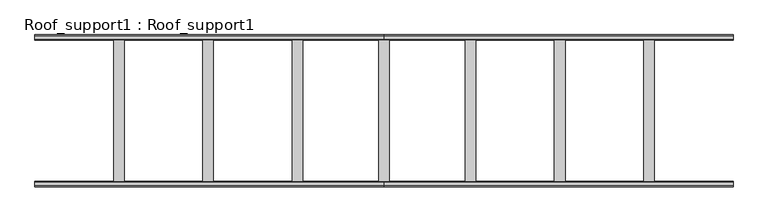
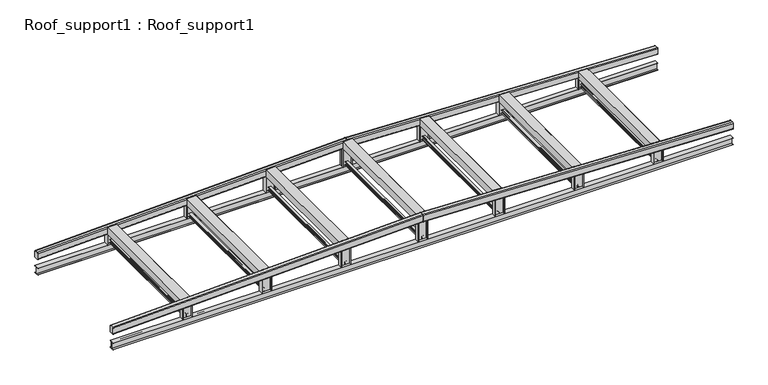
"""IFC4 building model written with IfcOpenShell, lengths in millimetres: beam geometry, Roof_support1 : Roof_support1."""

from ifc_helpers import new_model, si_unit, point, frame, frame_2d, origin, place, context, project, spatial, polyline, circle_curve, trimmed, segment, composite_curve, outline, extrude, source, transform, mapped, element, save
from ifc_brep_helpers import plane_surface, extruded_surface, advanced_brep


def roof_support1_roof_support1_25a3c9fb(model_context):
    return source(origin(), model_context, "Body", "SolidModel", [
        extrude(outline(polyline([(3326.3767243, 5150.0), (3333.4167515, 4948.4), (3177.6863105, 4948.4), (3177.6863105, 4953.4), (3328.2390999, 4953.4), (3321.5482805, 5145.0), (3171.2121292, 5145.0), (3171.0375254, 5150.0), (3326.3767243, 5150.0)])), frame((0.0, -2776.446518, 0.0), z_axis=(0.0, 1.0, 0.0), x_axis=(0.0, 0.0, 1.0)), (0.0, 0.0, 1.0), 2696.8321342),
        extrude(outline(polyline([(3387.6606342, 3450.0), (3394.7006613, 3248.4), (3238.9702203, 3248.4), (3238.9702203, 3253.4), (3389.5230098, 3253.4), (3382.8321903, 3445.0), (3232.4960391, 3445.0), (3232.3214353, 3450.0), (3387.6606342, 3450.0)])), frame((0.0, -2776.446518, 0.0), z_axis=(0.0, 1.0, 0.0), x_axis=(0.0, 0.0, 1.0)), (0.0, 0.0, 1.0), 2696.8321342),
        extrude(outline(polyline([(3448.3765673, 1750.0), (3455.4165944, 1548.4), (3299.6861534, 1548.4), (3299.6861534, 1553.4), (3450.2389429, 1553.4), (3443.5481234, 1745.0), (3293.2119722, 1745.0), (3293.0373683, 1750.0), (3448.3765673, 1750.0)])), frame((0.0, -2776.446518, 0.0), z_axis=(0.0, 1.0, 0.0), x_axis=(0.0, 0.0, 1.0)), (0.0, 0.0, 1.0), 2696.8321342),
        extrude(outline(polyline([(3507.1198461, -100.8), (3340.2193721, -100.8), (3340.393976, -95.8), (3502.1198461, -95.8), (3502.1198461, 95.8), (3340.2799419, 95.8), (3340.2799419, 100.8), (3507.1198461, 100.8), (3507.1198461, -100.8)])), frame((0.0, -2776.446518, 0.0), z_axis=(0.0, 1.0, 0.0), x_axis=(0.0, 0.0, 1.0)), (0.0, 0.0, 1.0), 2696.8321342),
        extrude(outline(polyline([(3446.3767243, -1751.6), (3291.0375254, -1751.6), (3291.2121292, -1746.6), (3441.5482805, -1746.6), (3448.2390999, -1555.0), (3297.6863105, -1555.0), (3297.6863105, -1550.0), (3453.4167515, -1550.0), (3446.3767243, -1751.6)])), frame((0.0, -2776.446518, 0.0), z_axis=(0.0, 1.0, 0.0), x_axis=(0.0, 0.0, 1.0)), (0.0, 0.0, 1.0), 2696.8321342),
        extrude(outline(polyline([(3386.3767243, -3451.6), (3231.0375254, -3451.6), (3231.2121292, -3446.6), (3381.5482805, -3446.6), (3388.2390999, -3255.0), (3237.6863105, -3255.0), (3237.6863105, -3250.0), (3393.4167515, -3250.0), (3386.3767243, -3451.6)])), frame((0.0, -2776.446518, 0.0), z_axis=(0.0, 1.0, 0.0), x_axis=(0.0, 0.0, 1.0)), (0.0, 0.0, 1.0), 2696.8321342),
        extrude(outline(polyline([(3326.3767243, -5151.6), (3171.0375254, -5151.6), (3171.2121292, -5146.6), (3321.5482805, -5146.6), (3328.2390999, -4955.0), (3177.6863105, -4955.0), (3177.6863105, -4950.0), (3333.4167515, -4950.0), (3326.3767243, -5151.6)])), frame((0.0, -2776.446518, 0.0), z_axis=(0.0, 1.0, 0.0), x_axis=(0.0, 0.0, 1.0)), (0.0, 0.0, 1.0), 2696.8321342),
        extrude(outline(composite_curve([segment(polyline([(3003.6, 5081.7625), (3003.6, 5021.4375), (3000.388379, 5021.4375)]), True, "CONTINUOUS"), segment(trimmed(circle_curve(frame_2d((3000.388379, 5023.9312396)), 2.4937396), [point((3000.388379, 5021.4375))], [point((2997.8946395, 5023.9312396))], False, "CARTESIAN"), True, "CONTINUOUS"), segment(polyline([(2997.8946395, 5023.9312396), (2996.9292635, 5042.3517109)]), True, "CONTINUOUS"), segment(trimmed(circle_curve(frame_2d((2990.0622374, 5042.3517109)), 6.8670261), [point((2996.9292635, 5042.3517109))], [point((2990.0622374, 5049.218737))], True, "CARTESIAN"), True, "CONTINUOUS"), segment(polyline([(2990.0622374, 5049.218737), (2940.985965, 5049.218737)]), True, "CONTINUOUS"), segment(trimmed(circle_curve(frame_2d((2940.985965, 5042.3506877)), 6.8680494), [point((2940.985965, 5049.218737))], [point((2934.1179156, 5042.3506877))], True, "CARTESIAN"), True, "CONTINUOUS"), segment(polyline([(2934.1179156, 5042.3506877), (2933.1492258, 5023.8669861)]), True, "CONTINUOUS"), segment(trimmed(circle_curve(frame_2d((2930.6065942, 5024.0002397)), 2.546121), [point((2933.1492258, 5023.8669861))], [point((2930.5621583, 5021.4545065))], False, "CARTESIAN"), True, "CONTINUOUS"), segment(polyline([(2930.5621583, 5021.4545065), (2927.4, 5021.4545065), (2927.4, 5081.7454935), (2930.5621583, 5081.7454935)]), True, "CONTINUOUS"), segment(trimmed(circle_curve(frame_2d((2930.6065942, 5079.1997603)), 2.546121), [point((2930.5621583, 5081.7454935))], [point((2933.1492258, 5079.3330139))], False, "CARTESIAN"), True, "CONTINUOUS"), segment(polyline([(2933.1492258, 5079.3330139), (2934.1179156, 5060.8493123)]), True, "CONTINUOUS"), segment(trimmed(circle_curve(frame_2d((2940.985965, 5060.8493123)), 6.8680494), [point((2934.1179156, 5060.8493123))], [point((2940.985965, 5053.981263))], True, "CARTESIAN"), True, "CONTINUOUS"), segment(polyline([(2940.985965, 5053.981263), (2990.0622374, 5053.981263)]), True, "CONTINUOUS"), segment(trimmed(circle_curve(frame_2d((2990.0622374, 5060.8482891)), 6.8670261), [point((2990.0622374, 5053.981263))], [point((2996.9292635, 5060.8482891))], True, "CARTESIAN"), True, "CONTINUOUS"), segment(polyline([(2996.9292635, 5060.8482891), (2997.8946395, 5079.2687604)]), True, "CONTINUOUS"), segment(trimmed(circle_curve(frame_2d((3000.388379, 5079.2687604)), 2.4937396), [point((2997.8946395, 5079.2687604))], [point((3000.388379, 5081.7625))], False, "CARTESIAN"), True, "CONTINUOUS"), segment(polyline([(3000.388379, 5081.7625), (3003.6, 5081.7625)]), True, "CONTINUOUS")], self_intersect=False)), frame((0.0, -2824.0353472, 0.0), z_axis=(0.0, 1.0, 0.0), x_axis=(0.0, 0.0, 1.0)), (0.0, 0.0, 1.0), 2792.0097926),
        extrude(outline(composite_curve([segment(polyline([(3003.6, 3381.7625), (3003.6, 3321.4375), (3000.388379, 3321.4375)]), True, "CONTINUOUS"), segment(trimmed(circle_curve(frame_2d((3000.388379, 3323.9312396)), 2.4937396), [point((3000.388379, 3321.4375))], [point((2997.8946395, 3323.9312396))], False, "CARTESIAN"), True, "CONTINUOUS"), segment(polyline([(2997.8946395, 3323.9312396), (2996.9292635, 3342.3517109)]), True, "CONTINUOUS"), segment(trimmed(circle_curve(frame_2d((2990.0622374, 3342.3517109)), 6.8670261), [point((2996.9292635, 3342.3517109))], [point((2990.0622374, 3349.218737))], True, "CARTESIAN"), True, "CONTINUOUS"), segment(polyline([(2990.0622374, 3349.218737), (2940.985965, 3349.218737)]), True, "CONTINUOUS"), segment(trimmed(circle_curve(frame_2d((2940.985965, 3342.3506877)), 6.8680494), [point((2940.985965, 3349.218737))], [point((2934.1179156, 3342.3506877))], True, "CARTESIAN"), True, "CONTINUOUS"), segment(polyline([(2934.1179156, 3342.3506877), (2933.1492258, 3323.8669861)]), True, "CONTINUOUS"), segment(trimmed(circle_curve(frame_2d((2930.6065942, 3324.0002397)), 2.546121), [point((2933.1492258, 3323.8669861))], [point((2930.5621583, 3321.4545065))], False, "CARTESIAN"), True, "CONTINUOUS"), segment(polyline([(2930.5621583, 3321.4545065), (2927.4, 3321.4545065), (2927.4, 3381.7454935), (2930.5621583, 3381.7454935)]), True, "CONTINUOUS"), segment(trimmed(circle_curve(frame_2d((2930.6065942, 3379.1997603)), 2.546121), [point((2930.5621583, 3381.7454935))], [point((2933.1492258, 3379.3330139))], False, "CARTESIAN"), True, "CONTINUOUS"), segment(polyline([(2933.1492258, 3379.3330139), (2934.1179156, 3360.8493123)]), True, "CONTINUOUS"), segment(trimmed(circle_curve(frame_2d((2940.985965, 3360.8493123)), 6.8680494), [point((2934.1179156, 3360.8493123))], [point((2940.985965, 3353.981263))], True, "CARTESIAN"), True, "CONTINUOUS"), segment(polyline([(2940.985965, 3353.981263), (2990.0622374, 3353.981263)]), True, "CONTINUOUS"), segment(trimmed(circle_curve(frame_2d((2990.0622374, 3360.8482891)), 6.8670261), [point((2990.0622374, 3353.981263))], [point((2996.9292635, 3360.8482891))], True, "CARTESIAN"), True, "CONTINUOUS"), segment(polyline([(2996.9292635, 3360.8482891), (2997.8946395, 3379.2687604)]), True, "CONTINUOUS"), segment(trimmed(circle_curve(frame_2d((3000.388379, 3379.2687604)), 2.4937396), [point((2997.8946395, 3379.2687604))], [point((3000.388379, 3381.7625))], False, "CARTESIAN"), True, "CONTINUOUS"), segment(polyline([(3000.388379, 3381.7625), (3003.6, 3381.7625)]), True, "CONTINUOUS")], self_intersect=False)), frame((0.0, -2824.0353472, 0.0), z_axis=(0.0, 1.0, 0.0), x_axis=(0.0, 0.0, 1.0)), (0.0, 0.0, 1.0), 2792.0097926),
        extrude(outline(composite_curve([segment(polyline([(3003.6, 1681.7625), (3003.6, 1621.4375), (3000.388379, 1621.4375)]), True, "CONTINUOUS"), segment(trimmed(circle_curve(frame_2d((3000.388379, 1623.9312396)), 2.4937396), [point((3000.388379, 1621.4375))], [point((2997.8946395, 1623.9312396))], False, "CARTESIAN"), True, "CONTINUOUS"), segment(polyline([(2997.8946395, 1623.9312396), (2996.9292635, 1642.3517109)]), True, "CONTINUOUS"), segment(trimmed(circle_curve(frame_2d((2990.0622374, 1642.3517109)), 6.8670261), [point((2996.9292635, 1642.3517109))], [point((2990.0622374, 1649.218737))], True, "CARTESIAN"), True, "CONTINUOUS"), segment(polyline([(2990.0622374, 1649.218737), (2940.985965, 1649.218737)]), True, "CONTINUOUS"), segment(trimmed(circle_curve(frame_2d((2940.985965, 1642.3506877)), 6.8680494), [point((2940.985965, 1649.218737))], [point((2934.1179156, 1642.3506877))], True, "CARTESIAN"), True, "CONTINUOUS"), segment(polyline([(2934.1179156, 1642.3506877), (2933.1492258, 1623.8669861)]), True, "CONTINUOUS"), segment(trimmed(circle_curve(frame_2d((2930.6065942, 1624.0002397)), 2.546121), [point((2933.1492258, 1623.8669861))], [point((2930.5621583, 1621.4545065))], False, "CARTESIAN"), True, "CONTINUOUS"), segment(polyline([(2930.5621583, 1621.4545065), (2927.4, 1621.4545065), (2927.4, 1681.7454935), (2930.5621583, 1681.7454935)]), True, "CONTINUOUS"), segment(trimmed(circle_curve(frame_2d((2930.6065942, 1679.1997603)), 2.546121), [point((2930.5621583, 1681.7454935))], [point((2933.1492258, 1679.3330139))], False, "CARTESIAN"), True, "CONTINUOUS"), segment(polyline([(2933.1492258, 1679.3330139), (2934.1179156, 1660.8493123)]), True, "CONTINUOUS"), segment(trimmed(circle_curve(frame_2d((2940.985965, 1660.8493123)), 6.8680494), [point((2934.1179156, 1660.8493123))], [point((2940.985965, 1653.981263))], True, "CARTESIAN"), True, "CONTINUOUS"), segment(polyline([(2940.985965, 1653.981263), (2990.0622374, 1653.981263)]), True, "CONTINUOUS"), segment(trimmed(circle_curve(frame_2d((2990.0622374, 1660.8482891)), 6.8670261), [point((2990.0622374, 1653.981263))], [point((2996.9292635, 1660.8482891))], True, "CARTESIAN"), True, "CONTINUOUS"), segment(polyline([(2996.9292635, 1660.8482891), (2997.8946395, 1679.2687604)]), True, "CONTINUOUS"), segment(trimmed(circle_curve(frame_2d((3000.388379, 1679.2687604)), 2.4937396), [point((2997.8946395, 1679.2687604))], [point((3000.388379, 1681.7625))], False, "CARTESIAN"), True, "CONTINUOUS"), segment(polyline([(3000.388379, 1681.7625), (3003.6, 1681.7625)]), True, "CONTINUOUS")], self_intersect=False)), frame((0.0, -2824.0353472, 0.0), z_axis=(0.0, 1.0, 0.0), x_axis=(0.0, 0.0, 1.0)), (0.0, 0.0, 1.0), 2792.0097926),
        extrude(outline(composite_curve([segment(polyline([(3003.6, 31.7625), (3003.6, -28.5625), (3000.388379, -28.5625)]), True, "CONTINUOUS"), segment(trimmed(circle_curve(frame_2d((3000.388379, -26.0687604)), 2.4937396), [point((3000.388379, -28.5625))], [point((2997.8946395, -26.0687604))], False, "CARTESIAN"), True, "CONTINUOUS"), segment(polyline([(2997.8946395, -26.0687604), (2996.9292635, -7.6482891)]), True, "CONTINUOUS"), segment(trimmed(circle_curve(frame_2d((2990.0622374, -7.6482891)), 6.8670261), [point((2996.9292635, -7.6482891))], [point((2990.0622374, -0.781263))], True, "CARTESIAN"), True, "CONTINUOUS"), segment(polyline([(2990.0622374, -0.781263), (2940.985965, -0.781263)]), True, "CONTINUOUS"), segment(trimmed(circle_curve(frame_2d((2940.985965, -7.6493123)), 6.8680494), [point((2940.985965, -0.781263))], [point((2934.1179156, -7.6493123))], True, "CARTESIAN"), True, "CONTINUOUS"), segment(polyline([(2934.1179156, -7.6493123), (2933.1492258, -26.1330139)]), True, "CONTINUOUS"), segment(trimmed(circle_curve(frame_2d((2930.6065942, -25.9997603)), 2.546121), [point((2933.1492258, -26.1330139))], [point((2930.5621583, -28.5454935))], False, "CARTESIAN"), True, "CONTINUOUS"), segment(polyline([(2930.5621583, -28.5454935), (2927.4, -28.5454935), (2927.4, 31.7454935), (2930.5621583, 31.7454935)]), True, "CONTINUOUS"), segment(trimmed(circle_curve(frame_2d((2930.6065942, 29.1997603)), 2.546121), [point((2930.5621583, 31.7454935))], [point((2933.1492258, 29.3330139))], False, "CARTESIAN"), True, "CONTINUOUS"), segment(polyline([(2933.1492258, 29.3330139), (2934.1179156, 10.8493123)]), True, "CONTINUOUS"), segment(trimmed(circle_curve(frame_2d((2940.985965, 10.8493123)), 6.8680494), [point((2934.1179156, 10.8493123))], [point((2940.985965, 3.981263))], True, "CARTESIAN"), True, "CONTINUOUS"), segment(polyline([(2940.985965, 3.981263), (2990.0622374, 3.981263)]), True, "CONTINUOUS"), segment(trimmed(circle_curve(frame_2d((2990.0622374, 10.8482891)), 6.8670261), [point((2990.0622374, 3.981263))], [point((2996.9292635, 10.8482891))], True, "CARTESIAN"), True, "CONTINUOUS"), segment(polyline([(2996.9292635, 10.8482891), (2997.8946395, 29.2687604)]), True, "CONTINUOUS"), segment(trimmed(circle_curve(frame_2d((3000.388379, 29.2687604)), 2.4937396), [point((2997.8946395, 29.2687604))], [point((3000.388379, 31.7625))], False, "CARTESIAN"), True, "CONTINUOUS"), segment(polyline([(3000.388379, 31.7625), (3003.6, 31.7625)]), True, "CONTINUOUS")], self_intersect=False)), frame((0.0, -2824.0353472, 0.0), z_axis=(0.0, 1.0, 0.0), x_axis=(0.0, 0.0, 1.0)), (0.0, 0.0, 1.0), 2792.0097926),
        extrude(outline(composite_curve([segment(polyline([(3003.6, -1619.8375), (3003.6, -1680.1625), (3000.388379, -1680.1625)]), True, "CONTINUOUS"), segment(trimmed(circle_curve(frame_2d((3000.388379, -1677.6687604)), 2.4937396), [point((3000.388379, -1680.1625))], [point((2997.8946395, -1677.6687604))], False, "CARTESIAN"), True, "CONTINUOUS"), segment(polyline([(2997.8946395, -1677.6687604), (2996.9292635, -1659.2482891)]), True, "CONTINUOUS"), segment(trimmed(circle_curve(frame_2d((2990.0622374, -1659.2482891)), 6.8670261), [point((2996.9292635, -1659.2482891))], [point((2990.0622374, -1652.381263))], True, "CARTESIAN"), True, "CONTINUOUS"), segment(polyline([(2990.0622374, -1652.381263), (2940.985965, -1652.381263)]), True, "CONTINUOUS"), segment(trimmed(circle_curve(frame_2d((2940.985965, -1659.2493123)), 6.8680494), [point((2940.985965, -1652.381263))], [point((2934.1179156, -1659.2493123))], True, "CARTESIAN"), True, "CONTINUOUS"), segment(polyline([(2934.1179156, -1659.2493123), (2933.1492258, -1677.7330139)]), True, "CONTINUOUS"), segment(trimmed(circle_curve(frame_2d((2930.6065942, -1677.5997603)), 2.546121), [point((2933.1492258, -1677.7330139))], [point((2930.5621583, -1680.1454935))], False, "CARTESIAN"), True, "CONTINUOUS"), segment(polyline([(2930.5621583, -1680.1454935), (2927.4, -1680.1454935), (2927.4, -1619.8545065), (2930.5621583, -1619.8545065)]), True, "CONTINUOUS"), segment(trimmed(circle_curve(frame_2d((2930.6065942, -1622.4002397)), 2.546121), [point((2930.5621583, -1619.8545065))], [point((2933.1492258, -1622.2669861))], False, "CARTESIAN"), True, "CONTINUOUS"), segment(polyline([(2933.1492258, -1622.2669861), (2934.1179156, -1640.7506877)]), True, "CONTINUOUS"), segment(trimmed(circle_curve(frame_2d((2940.985965, -1640.7506877)), 6.8680494), [point((2934.1179156, -1640.7506877))], [point((2940.985965, -1647.618737))], True, "CARTESIAN"), True, "CONTINUOUS"), segment(polyline([(2940.985965, -1647.618737), (2990.0622374, -1647.618737)]), True, "CONTINUOUS"), segment(trimmed(circle_curve(frame_2d((2990.0622374, -1640.7517109)), 6.8670261), [point((2990.0622374, -1647.618737))], [point((2996.9292635, -1640.7517109))], True, "CARTESIAN"), True, "CONTINUOUS"), segment(polyline([(2996.9292635, -1640.7517109), (2997.8946395, -1622.3312396)]), True, "CONTINUOUS"), segment(trimmed(circle_curve(frame_2d((3000.388379, -1622.3312396)), 2.4937396), [point((2997.8946395, -1622.3312396))], [point((3000.388379, -1619.8375))], False, "CARTESIAN"), True, "CONTINUOUS"), segment(polyline([(3000.388379, -1619.8375), (3003.6, -1619.8375)]), True, "CONTINUOUS")], self_intersect=False)), frame((0.0, -2824.0353472, 0.0), z_axis=(0.0, 1.0, 0.0), x_axis=(0.0, 0.0, 1.0)), (0.0, 0.0, 1.0), 2792.0097926),
        extrude(outline(composite_curve([segment(polyline([(3003.6, -3319.8375), (3003.6, -3380.1625), (3000.388379, -3380.1625)]), True, "CONTINUOUS"), segment(trimmed(circle_curve(frame_2d((3000.388379, -3377.6687604)), 2.4937396), [point((3000.388379, -3380.1625))], [point((2997.8946395, -3377.6687604))], False, "CARTESIAN"), True, "CONTINUOUS"), segment(polyline([(2997.8946395, -3377.6687604), (2996.9292635, -3359.2482891)]), True, "CONTINUOUS"), segment(trimmed(circle_curve(frame_2d((2990.0622374, -3359.2482891)), 6.8670261), [point((2996.9292635, -3359.2482891))], [point((2990.0622374, -3352.381263))], True, "CARTESIAN"), True, "CONTINUOUS"), segment(polyline([(2990.0622374, -3352.381263), (2940.985965, -3352.381263)]), True, "CONTINUOUS"), segment(trimmed(circle_curve(frame_2d((2940.985965, -3359.2493123)), 6.8680494), [point((2940.985965, -3352.381263))], [point((2934.1179156, -3359.2493123))], True, "CARTESIAN"), True, "CONTINUOUS"), segment(polyline([(2934.1179156, -3359.2493123), (2933.1492258, -3377.7330139)]), True, "CONTINUOUS"), segment(trimmed(circle_curve(frame_2d((2930.6065942, -3377.5997603)), 2.546121), [point((2933.1492258, -3377.7330139))], [point((2930.5621583, -3380.1454935))], False, "CARTESIAN"), True, "CONTINUOUS"), segment(polyline([(2930.5621583, -3380.1454935), (2927.4, -3380.1454935), (2927.4, -3319.8545065), (2930.5621583, -3319.8545065)]), True, "CONTINUOUS"), segment(trimmed(circle_curve(frame_2d((2930.6065942, -3322.4002397)), 2.546121), [point((2930.5621583, -3319.8545065))], [point((2933.1492258, -3322.2669861))], False, "CARTESIAN"), True, "CONTINUOUS"), segment(polyline([(2933.1492258, -3322.2669861), (2934.1179156, -3340.7506877)]), True, "CONTINUOUS"), segment(trimmed(circle_curve(frame_2d((2940.985965, -3340.7506877)), 6.8680494), [point((2934.1179156, -3340.7506877))], [point((2940.985965, -3347.618737))], True, "CARTESIAN"), True, "CONTINUOUS"), segment(polyline([(2940.985965, -3347.618737), (2990.0622374, -3347.618737)]), True, "CONTINUOUS"), segment(trimmed(circle_curve(frame_2d((2990.0622374, -3340.7517109)), 6.8670261), [point((2990.0622374, -3347.618737))], [point((2996.9292635, -3340.7517109))], True, "CARTESIAN"), True, "CONTINUOUS"), segment(polyline([(2996.9292635, -3340.7517109), (2997.8946395, -3322.3312396)]), True, "CONTINUOUS"), segment(trimmed(circle_curve(frame_2d((3000.388379, -3322.3312396)), 2.4937396), [point((2997.8946395, -3322.3312396))], [point((3000.388379, -3319.8375))], False, "CARTESIAN"), True, "CONTINUOUS"), segment(polyline([(3000.388379, -3319.8375), (3003.6, -3319.8375)]), True, "CONTINUOUS")], self_intersect=False)), frame((0.0, -2824.0353472, 0.0), z_axis=(0.0, 1.0, 0.0), x_axis=(0.0, 0.0, 1.0)), (0.0, 0.0, 1.0), 2792.0097926),
        extrude(outline(polyline([(-4954.75, -79.6304509), (-4954.75, -32.0304509), (-5145.25, -32.0304509), (-5145.25, -79.6304509), (-5151.6, -79.6304509), (-5151.6, 21.9695491), (-5145.25, 21.9695491), (-5145.25, -25.6304509), (-4954.75, -25.6304509), (-4954.75, 21.9695491), (-4950.0, 21.9695491), (-4950.0, -79.6304509), (-4954.75, -79.6304509)])), frame((0.0, 0.0, 2927.4), z_axis=(0.0, 0.0, 1.0), x_axis=(1.0, 0.0, 0.0)), (0.0, 0.0, 1.0), 243.3969424),
        extrude(outline(polyline([(-3254.75, -79.6304509), (-3254.75, -32.0304509), (-3445.25, -32.0304509), (-3445.25, -79.6304509), (-3451.6, -79.6304509), (-3451.6, 21.9695491), (-3445.25, 21.9695491), (-3445.25, -25.6304509), (-3254.75, -25.6304509), (-3254.75, 21.9695491), (-3250.0, 21.9695491), (-3250.0, -79.6304509), (-3254.75, -79.6304509)])), frame((0.0, 0.0, 2927.4), z_axis=(0.0, 0.0, 1.0), x_axis=(1.0, 0.0, 0.0)), (0.0, 0.0, 1.0), 300.0067041),
        extrude(outline(polyline([(-1554.75, -79.6304509), (-1554.75, -32.0304509), (-1745.25, -32.0304509), (-1745.25, -79.6304509), (-1751.6, -79.6304509), (-1751.6, 21.9695491), (-1745.25, 21.9695491), (-1745.25, -25.6304509), (-1554.75, -25.6304509), (-1554.75, 21.9695491), (-1550.0, 21.9695491), (-1550.0, -79.6304509), (-1554.75, -79.6304509)])), frame((0.0, 0.0, 2927.4), z_axis=(0.0, 0.0, 1.0), x_axis=(1.0, 0.0, 0.0)), (0.0, 0.0, 1.0), 370.0191844),
        extrude(outline(polyline([(4954.75, -79.6304509), (4950.0, -79.6304509), (4950.0, 21.9695491), (4954.75, 21.9695491), (4954.75, -25.6304509), (5145.25, -25.6304509), (5145.25, 21.9695491), (5151.6, 21.9695491), (5151.6, -79.6304509), (5145.25, -79.6304509), (5145.25, -32.0304509), (4954.75, -32.0304509), (4954.75, -79.6304509)])), frame((0.0, 0.0, 2927.4), z_axis=(0.0, 0.0, 1.0), x_axis=(1.0, 0.0, 0.0)), (0.0, 0.0, 1.0), 243.4921623),
        extrude(outline(polyline([(3254.75, -79.6304509), (3250.0, -79.6304509), (3250.0, 21.9695491), (3254.75, 21.9695491), (3254.75, -25.6304509), (3445.25, -25.6304509), (3445.25, 21.9695491), (3451.6, 21.9695491), (3451.6, -79.6304509), (3445.25, -79.6304509), (3445.25, -32.0304509), (3254.75, -32.0304509), (3254.75, -79.6304509)])), frame((0.0, 0.0, 2927.4), z_axis=(0.0, 0.0, 1.0), x_axis=(1.0, 0.0, 0.0)), (0.0, 0.0, 1.0), 300.1949921),
        extrude(outline(polyline([(1554.75, -79.6304509), (1550.0, -79.6304509), (1550.0, 21.9695491), (1554.75, 21.9695491), (1554.75, -25.6304509), (1745.25, -25.6304509), (1745.25, 21.9695491), (1751.6, 21.9695491), (1751.6, -79.6304509), (1745.25, -79.6304509), (1745.25, -32.0304509), (1554.75, -32.0304509), (1554.75, -79.6304509)])), frame((0.0, 0.0, 2927.4), z_axis=(0.0, 0.0, 1.0), x_axis=(1.0, 0.0, 0.0)), (0.0, 0.0, 1.0), 356.5460478),
        extrude(outline(polyline([(-95.25, -79.6304509), (-100.0, -79.6304509), (-100.0, 21.9695491), (-95.25, 21.9695491), (-95.25, -25.6304509), (95.25, -25.6304509), (95.25, 21.9695491), (101.6, 21.9695491), (101.6, -79.6304509), (95.25, -79.6304509), (95.25, -32.0304509), (-95.25, -32.0304509), (-95.25, -79.6304509)])), frame((0.0, 0.0, 2927.4), z_axis=(0.0, 0.0, 1.0), x_axis=(1.0, 0.0, 0.0)), (0.0, 0.0, 1.0), 412.8799419),
        extrude(outline(polyline([(21.9632746, 2927.4), (21.9632746, 2924.2490079), (-25.6255546, 2924.2490079), (-25.6255546, 2778.2490079), (21.9632746, 2778.2490079), (21.9632746, 2775.0490079), (-79.6143838, 2775.0490079), (-79.6143838, 2778.2490079), (-32.0255546, 2778.2490079), (-32.0255546, 2924.2490079), (-79.6143838, 2924.2490079), (-79.6143838, 2927.4), (21.9632746, 2927.4)])), frame((-6652.6, 0.0, 0.0), z_axis=(1.0, 0.0, 0.0), x_axis=(0.0, 1.0, 0.0)), (0.0, 0.0, 1.0), 13305.2),
        advanced_brep(
        [(6652.6, 21.9695491, 3259.0), (6652.6, 5.9695491, 3275.0), (6652.6, -63.5911139, 3275.0), (6652.6, -79.5911139, 3259.0), (6652.6, -79.5911139, 3138.6), (6652.6, -63.5911139, 3122.6), (6652.6, 5.9695491, 3122.6), (6652.6, 21.9695491, 3138.6), (0.0, 21.9695491, 3494.7476636), (0.0, 21.9695491, 3359.6), (0.0, 5.9695491, 3343.6), (0.0, -63.6304509, 3343.6), (0.0, -79.6304509, 3359.6), (0.0, -79.6304509, 3494.7476636), (0.0, -63.6304509, 3510.7476636), (0.0, 5.9695491, 3510.7476636)],
        [
            (0, 1, circle_curve(frame((6652.6, 5.9695491, 3259.0), z_axis=(1.0, 0.0, 0.0), x_axis=(0.0, -1.0, 0.0)), 16.0)),
            (1, 2),
            (2, 3, circle_curve(frame((6652.6, -63.5911139, 3259.0), z_axis=(1.0, 0.0, 0.0), x_axis=(0.0, -1.0, 0.0)), 16.0)),
            (3, 4),
            (4, 5, circle_curve(frame((6652.6, -63.5911139, 3138.6), z_axis=(1.0, 0.0, 0.0), x_axis=(0.0, -1.0, 0.0)), 16.0)),
            (5, 6),
            (6, 7, circle_curve(frame((6652.6, 5.9695491, 3138.6), z_axis=(1.0, 0.0, 0.0), x_axis=(0.0, -1.0, 0.0)), 16.0)),
            (7, 0),
            (8, 9),
            (9, 10, circle_curve(frame((0.0, 5.9695491, 3359.6), z_axis=(-1.0, 0.0, 0.0), x_axis=(0.0, -1.0, 0.0)), 16.0)),
            (10, 11),
            (11, 12, circle_curve(frame((0.0, -63.6304509, 3359.6), z_axis=(-1.0, 0.0, 0.0), x_axis=(0.0, -1.0, 0.0)), 16.0)),
            (12, 13),
            (13, 14, circle_curve(frame((0.0, -63.6304509, 3494.7476636), z_axis=(-1.0, 0.0, 0.0), x_axis=(0.0, -1.0, 0.0)), 16.0)),
            (14, 15),
            (15, 8, circle_curve(frame((0.0, 5.9695491, 3494.7476636), z_axis=(-1.0, 0.0, 0.0), x_axis=(0.0, -1.0, 0.0)), 16.0)),
            (15, 1),
            (0, 8),
            (14, 2),
            (13, 3),
            (12, 4),
            (11, 5),
            (10, 6),
            (9, 7),
        ],
        [
            plane_surface(frame((6652.6, -28.8107824, 3198.8), z_axis=(1.0, 0.0, 0.0), x_axis=(0.0, 1.0, 0.0))),
            plane_surface(frame((0.0, -28.8304509, 3427.1738318), z_axis=(-1.0, 0.0, 0.0), x_axis=(0.0, 1.0, 0.0))),
            extruded_surface(trimmed(circle_curve(frame((0.0, 5.9695491, 3494.7476636), z_axis=(1.0, 0.0, 0.0), x_axis=(0.0, -1.0, 0.0)), 16.0), [point((0.0, 21.9695491, 3494.7476636))], [point((0.0, 5.9695491, 3510.7476636))], True, "CARTESIAN"), (6652.6, 0.0, -235.74766360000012), 6656.775775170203),
            plane_surface(frame((0.0, -28.8304509, 3510.7476636), z_axis=(0.035414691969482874, 0.0, 0.9993727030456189), x_axis=(0.0, -1.0, 0.0))),
            extruded_surface(trimmed(circle_curve(frame((0.0, -63.6304509, 3494.7476636), z_axis=(1.0, 0.0, 0.0), x_axis=(0.0, -1.0, 0.0)), 16.0), [point((0.0, -63.6304509, 3510.7476636))], [point((0.0, -79.6304509, 3494.7476636))], True, "CARTESIAN"), (6652.6, 0.03933699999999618, -235.74766360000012), 6656.775775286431),
            plane_surface(frame((0.0, -79.6304509, 3427.1738318), z_axis=(5.913030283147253e-06, -0.9999999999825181, 0.0), x_axis=(0.0, 0.0, -1.0))),
            extruded_surface(trimmed(circle_curve(frame((0.0, -63.6304509, 3359.6), z_axis=(1.0, 0.0, 0.0), x_axis=(0.0, -1.0, 0.0)), 16.0), [point((0.0, -79.6304509, 3359.6))], [point((0.0, -63.6304509, 3343.6))], True, "CARTESIAN"), (6652.6, 0.03933699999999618, -221.0), 6656.269808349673),
            plane_surface(frame((0.0, -28.8304509, 3343.6), z_axis=(-0.03320177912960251, 0.0, -0.9994486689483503), x_axis=(0.0, 1.0, 0.0))),
            extruded_surface(trimmed(circle_curve(frame((0.0, 5.9695491, 3359.6), z_axis=(1.0, 0.0, 0.0), x_axis=(0.0, -1.0, 0.0)), 16.0), [point((0.0, 5.9695491, 3343.6))], [point((0.0, 21.9695491, 3359.6))], True, "CARTESIAN"), (6652.6, 0.0, -221.0), 6656.269808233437),
            plane_surface(frame((0.0, 21.9695491, 3427.1738318), z_axis=(0.0, 1.0, 0.0), x_axis=(0.0, 0.0, 1.0))),
        ],
        [
            (0, [[1, 2, 3, 4, 5, 6, 7, 8]]),
            (1, [[9, 10, 11, 12, 13, 14, 15, 16]]),
            (2, [[-16, 17, -1, 18]]),
            (3, [[-15, 19, -2, -17]]),
            (4, [[-14, 20, -3, -19]]),
            (5, [[-13, 21, -4, -20]]),
            (6, [[-12, 22, -5, -21]]),
            (7, [[-11, 23, -6, -22]]),
            (8, [[-10, 24, -7, -23]]),
            (9, [[-9, -18, -8, -24]]),
        ],
    ),
        advanced_brep(
        [(-6652.6, 21.9695491, 3259.0), (-6652.6, 21.9695491, 3138.6), (-6652.6, 5.9695491, 3122.6), (-6652.6, -63.5911139, 3122.6), (-6652.6, -79.5911139, 3138.6), (-6652.6, -79.5911139, 3259.0), (-6652.6, -63.5911139, 3275.0), (-6652.6, 5.9695491, 3275.0), (0.0, 21.9695491, 3494.7476636), (0.0, 5.9695491, 3510.7476636), (0.0, -63.6304509, 3510.7476636), (0.0, -79.6304509, 3494.7476636), (0.0, -79.6304509, 3359.6), (0.0, -63.6304509, 3343.6), (0.0, 5.9695491, 3343.6), (0.0, 21.9695491, 3359.6)],
        [
            (0, 1),
            (1, 2, circle_curve(frame((-6652.6, 5.9695491, 3138.6), z_axis=(-1.0, 0.0, 0.0), x_axis=(0.0, -1.0, 0.0)), 16.0)),
            (2, 3),
            (3, 4, circle_curve(frame((-6652.6, -63.5911139, 3138.6), z_axis=(-1.0, 0.0, 0.0), x_axis=(0.0, -1.0, 0.0)), 16.0)),
            (4, 5),
            (5, 6, circle_curve(frame((-6652.6, -63.5911139, 3259.0), z_axis=(-1.0, 0.0, 0.0), x_axis=(0.0, -1.0, 0.0)), 16.0)),
            (6, 7),
            (7, 0, circle_curve(frame((-6652.6, 5.9695491, 3259.0), z_axis=(-1.0, 0.0, 0.0), x_axis=(0.0, -1.0, 0.0)), 16.0)),
            (8, 9, circle_curve(frame((0.0, 5.9695491, 3494.7476636), z_axis=(1.0, 0.0, 0.0), x_axis=(0.0, -1.0, 0.0)), 16.0)),
            (9, 10),
            (10, 11, circle_curve(frame((0.0, -63.6304509, 3494.7476636), z_axis=(1.0, 0.0, 0.0), x_axis=(0.0, -1.0, 0.0)), 16.0)),
            (11, 12),
            (12, 13, circle_curve(frame((0.0, -63.6304509, 3359.6), z_axis=(1.0, 0.0, 0.0), x_axis=(0.0, -1.0, 0.0)), 16.0)),
            (13, 14),
            (14, 15, circle_curve(frame((0.0, 5.9695491, 3359.6), z_axis=(1.0, 0.0, 0.0), x_axis=(0.0, -1.0, 0.0)), 16.0)),
            (15, 8),
            (8, 0),
            (7, 9),
            (6, 10),
            (5, 11),
            (4, 12),
            (3, 13),
            (2, 14),
            (1, 15),
        ],
        [
            plane_surface(frame((-6652.6, -28.8107824, 3198.8), z_axis=(-1.0, 0.0, 0.0), x_axis=(0.0, -1.0, 0.0))),
            plane_surface(frame((0.0, -28.8304509, 3427.1738318), z_axis=(1.0, 0.0, 0.0), x_axis=(0.0, -1.0, 0.0))),
            extruded_surface(trimmed(circle_curve(frame((0.0, 5.9695491, 3494.7476636), z_axis=(-1.0, 0.0, 0.0), x_axis=(0.0, -1.0, 0.0)), 16.0), [point((0.0, 5.9695491, 3510.7476636))], [point((0.0, 21.9695491, 3494.7476636))], True, "CARTESIAN"), (-6652.6, 0.0, -235.74766360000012), 6656.775775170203),
            plane_surface(frame((0.0, -28.8304509, 3510.7476636), z_axis=(-0.035414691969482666, 0.0, 0.9993727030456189), x_axis=(0.0, 1.0, 0.0))),
            extruded_surface(trimmed(circle_curve(frame((0.0, -63.6304509, 3494.7476636), z_axis=(-1.0, 0.0, 0.0), x_axis=(0.0, -1.0, 0.0)), 16.0), [point((0.0, -79.6304509, 3494.7476636))], [point((0.0, -63.6304509, 3510.7476636))], True, "CARTESIAN"), (-6652.6, 0.03933699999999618, -235.74766360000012), 6656.775775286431),
            plane_surface(frame((0.0, -79.6304509, 3427.1738318), z_axis=(-5.913030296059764e-06, -0.9999999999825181, 0.0), x_axis=(0.0, 0.0, 1.0))),
            extruded_surface(trimmed(circle_curve(frame((0.0, -63.6304509, 3359.6), z_axis=(-1.0, 0.0, 0.0), x_axis=(0.0, -1.0, 0.0)), 16.0), [point((0.0, -63.6304509, 3343.6))], [point((0.0, -79.6304509, 3359.6))], True, "CARTESIAN"), (-6652.6, 0.03933699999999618, -221.0), 6656.269808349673),
            plane_surface(frame((0.0, -28.8304509, 3343.6), z_axis=(0.03320177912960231, 0.0, -0.9994486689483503), x_axis=(0.0, -1.0, 0.0))),
            extruded_surface(trimmed(circle_curve(frame((0.0, 5.9695491, 3359.6), z_axis=(-1.0, 0.0, 0.0), x_axis=(0.0, -1.0, 0.0)), 16.0), [point((0.0, 21.9695491, 3359.6))], [point((0.0, 5.9695491, 3343.6))], True, "CARTESIAN"), (-6652.6, 0.0, -221.0), 6656.269808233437),
            plane_surface(frame((0.0, 21.9695491, 3427.1738318), z_axis=(0.0, 1.0, 0.0), x_axis=(0.0, 0.0, -1.0))),
        ],
        [
            (0, [[1, 2, 3, 4, 5, 6, 7, 8]]),
            (1, [[9, 10, 11, 12, 13, 14, 15, 16]]),
            (2, [[-9, 17, -8, 18]]),
            (3, [[-10, -18, -7, 19]]),
            (4, [[-11, -19, -6, 20]]),
            (5, [[-12, -20, -5, 21]]),
            (6, [[-13, -21, -4, 22]]),
            (7, [[-14, -22, -3, 23]]),
            (8, [[-15, -23, -2, 24]]),
            (9, [[-16, -24, -1, -17]]),
        ],
    ),
        extrude(outline(composite_curve([segment(polyline([(3003.6, -5019.8375), (3003.6, -5080.1625), (3000.388379, -5080.1625)]), True, "CONTINUOUS"), segment(trimmed(circle_curve(frame_2d((3000.388379, -5077.6687604)), 2.4937396), [point((3000.388379, -5080.1625))], [point((2997.8946395, -5077.6687604))], False, "CARTESIAN"), True, "CONTINUOUS"), segment(polyline([(2997.8946395, -5077.6687604), (2996.9292635, -5059.2482891)]), True, "CONTINUOUS"), segment(trimmed(circle_curve(frame_2d((2990.0622374, -5059.2482891)), 6.8670261), [point((2996.9292635, -5059.2482891))], [point((2990.0622374, -5052.381263))], True, "CARTESIAN"), True, "CONTINUOUS"), segment(polyline([(2990.0622374, -5052.381263), (2940.985965, -5052.381263)]), True, "CONTINUOUS"), segment(trimmed(circle_curve(frame_2d((2940.985965, -5059.2493123)), 6.8680494), [point((2940.985965, -5052.381263))], [point((2934.1179156, -5059.2493123))], True, "CARTESIAN"), True, "CONTINUOUS"), segment(polyline([(2934.1179156, -5059.2493123), (2933.1492258, -5077.7330139)]), True, "CONTINUOUS"), segment(trimmed(circle_curve(frame_2d((2930.6065942, -5077.5997603)), 2.546121), [point((2933.1492258, -5077.7330139))], [point((2930.5621583, -5080.1454935))], False, "CARTESIAN"), True, "CONTINUOUS"), segment(polyline([(2930.5621583, -5080.1454935), (2927.4, -5080.1454935), (2927.4, -5019.8545065), (2930.5621583, -5019.8545065)]), True, "CONTINUOUS"), segment(trimmed(circle_curve(frame_2d((2930.6065942, -5022.4002397)), 2.546121), [point((2930.5621583, -5019.8545065))], [point((2933.1492258, -5022.2669861))], False, "CARTESIAN"), True, "CONTINUOUS"), segment(polyline([(2933.1492258, -5022.2669861), (2934.1179156, -5040.7506877)]), True, "CONTINUOUS"), segment(trimmed(circle_curve(frame_2d((2940.985965, -5040.7506877)), 6.8680494), [point((2934.1179156, -5040.7506877))], [point((2940.985965, -5047.618737))], True, "CARTESIAN"), True, "CONTINUOUS"), segment(polyline([(2940.985965, -5047.618737), (2990.0622374, -5047.618737)]), True, "CONTINUOUS"), segment(trimmed(circle_curve(frame_2d((2990.0622374, -5040.7517109)), 6.8670261), [point((2990.0622374, -5047.618737))], [point((2996.9292635, -5040.7517109))], True, "CARTESIAN"), True, "CONTINUOUS"), segment(polyline([(2996.9292635, -5040.7517109), (2997.8946395, -5022.3312396)]), True, "CONTINUOUS"), segment(trimmed(circle_curve(frame_2d((3000.388379, -5022.3312396)), 2.4937396), [point((2997.8946395, -5022.3312396))], [point((3000.388379, -5019.8375))], False, "CARTESIAN"), True, "CONTINUOUS"), segment(polyline([(3000.388379, -5019.8375), (3003.6, -5019.8375)]), True, "CONTINUOUS")], self_intersect=False)), frame((0.0, -2824.0353472, 0.0), z_axis=(0.0, 1.0, 0.0), x_axis=(0.0, 0.0, 1.0)), (0.0, 0.0, 1.0), 2792.0097926),
        extrude(outline(polyline([(-4954.75, -2776.4304509), (-4950.0, -2776.4304509), (-4950.0, -2878.0304509), (-4954.75, -2878.0304509), (-4954.75, -2830.4304509), (-5145.25, -2830.4304509), (-5145.25, -2878.0304509), (-5151.6, -2878.0304509), (-5151.6, -2776.4304509), (-5145.25, -2776.4304509), (-5145.25, -2824.0304509), (-4954.75, -2824.0304509), (-4954.75, -2776.4304509)])), frame((0.0, 0.0, 2927.4), z_axis=(0.0, 0.0, 1.0), x_axis=(1.0, 0.0, 0.0)), (0.0, 0.0, 1.0), 243.3969424),
        extrude(outline(polyline([(-3254.75, -2776.4304509), (-3250.0, -2776.4304509), (-3250.0, -2878.0304509), (-3254.75, -2878.0304509), (-3254.75, -2830.4304509), (-3445.25, -2830.4304509), (-3445.25, -2878.0304509), (-3451.6, -2878.0304509), (-3451.6, -2776.4304509), (-3445.25, -2776.4304509), (-3445.25, -2824.0304509), (-3254.75, -2824.0304509), (-3254.75, -2776.4304509)])), frame((0.0, 0.0, 2927.4), z_axis=(0.0, 0.0, 1.0), x_axis=(1.0, 0.0, 0.0)), (0.0, 0.0, 1.0), 300.0067041),
        extrude(outline(polyline([(-1554.75, -2776.4304509), (-1550.0, -2776.4304509), (-1550.0, -2878.0304509), (-1554.75, -2878.0304509), (-1554.75, -2830.4304509), (-1745.25, -2830.4304509), (-1745.25, -2878.0304509), (-1751.6, -2878.0304509), (-1751.6, -2776.4304509), (-1745.25, -2776.4304509), (-1745.25, -2824.0304509), (-1554.75, -2824.0304509), (-1554.75, -2776.4304509)])), frame((0.0, 0.0, 2927.4), z_axis=(0.0, 0.0, 1.0), x_axis=(1.0, 0.0, 0.0)), (0.0, 0.0, 1.0), 370.0191844),
        extrude(outline(polyline([(4954.75, -2776.4304509), (4954.75, -2824.0304509), (5145.25, -2824.0304509), (5145.25, -2776.4304509), (5151.6, -2776.4304509), (5151.6, -2878.0304509), (5145.25, -2878.0304509), (5145.25, -2830.4304509), (4954.75, -2830.4304509), (4954.75, -2878.0304509), (4950.0, -2878.0304509), (4950.0, -2776.4304509), (4954.75, -2776.4304509)])), frame((0.0, 0.0, 2927.4), z_axis=(0.0, 0.0, 1.0), x_axis=(1.0, 0.0, 0.0)), (0.0, 0.0, 1.0), 243.4921623),
        extrude(outline(polyline([(3254.75, -2776.4304509), (3254.75, -2824.0304509), (3445.25, -2824.0304509), (3445.25, -2776.4304509), (3451.6, -2776.4304509), (3451.6, -2878.0304509), (3445.25, -2878.0304509), (3445.25, -2830.4304509), (3254.75, -2830.4304509), (3254.75, -2878.0304509), (3250.0, -2878.0304509), (3250.0, -2776.4304509), (3254.75, -2776.4304509)])), frame((0.0, 0.0, 2927.4), z_axis=(0.0, 0.0, 1.0), x_axis=(1.0, 0.0, 0.0)), (0.0, 0.0, 1.0), 300.1949921),
        extrude(outline(polyline([(1554.75, -2776.4304509), (1554.75, -2824.0304509), (1745.25, -2824.0304509), (1745.25, -2776.4304509), (1751.6, -2776.4304509), (1751.6, -2878.0304509), (1745.25, -2878.0304509), (1745.25, -2830.4304509), (1554.75, -2830.4304509), (1554.75, -2878.0304509), (1550.0, -2878.0304509), (1550.0, -2776.4304509), (1554.75, -2776.4304509)])), frame((0.0, 0.0, 2927.4), z_axis=(0.0, 0.0, 1.0), x_axis=(1.0, 0.0, 0.0)), (0.0, 0.0, 1.0), 356.5460478),
        extrude(outline(polyline([(-95.25, -2776.4304509), (-95.25, -2824.0304509), (95.25, -2824.0304509), (95.25, -2776.4304509), (101.6, -2776.4304509), (101.6, -2878.0304509), (95.25, -2878.0304509), (95.25, -2830.4304509), (-95.25, -2830.4304509), (-95.25, -2878.0304509), (-100.0, -2878.0304509), (-100.0, -2776.4304509), (-95.25, -2776.4304509)])), frame((0.0, 0.0, 2927.4), z_axis=(0.0, 0.0, 1.0), x_axis=(1.0, 0.0, 0.0)), (0.0, 0.0, 1.0), 412.8799419),
        extrude(outline(polyline([(-2878.0241764, 2927.4), (-2776.446518, 2927.4), (-2776.446518, 2924.2490079), (-2824.0353472, 2924.2490079), (-2824.0353472, 2778.2490079), (-2776.446518, 2778.2490079), (-2776.446518, 2775.0490079), (-2878.0241764, 2775.0490079), (-2878.0241764, 2778.2490079), (-2830.4353472, 2778.2490079), (-2830.4353472, 2924.2490079), (-2878.0241764, 2924.2490079), (-2878.0241764, 2927.4)])), frame((-6652.6, 0.0, 0.0), z_axis=(1.0, 0.0, 0.0), x_axis=(0.0, 1.0, 0.0)), (0.0, 0.0, 1.0), 13305.2),
        advanced_brep(
        [(6652.6, -2878.0304509, 3259.0), (6652.6, -2878.0304509, 3138.6), (6652.6, -2862.0304509, 3122.6), (6652.6, -2792.4697879, 3122.6), (6652.6, -2776.4697879, 3138.6), (6652.6, -2776.4697879, 3259.0), (6652.6, -2792.4697879, 3275.0), (6652.6, -2862.0304509, 3275.0), (0.0, -2878.0304509, 3494.7476636), (0.0, -2862.0304509, 3510.7476636), (0.0, -2792.4304509, 3510.7476636), (0.0, -2776.4304509, 3494.7476636), (0.0, -2776.4304509, 3359.6), (0.0, -2792.4304509, 3343.6), (0.0, -2862.0304509, 3343.6), (0.0, -2878.0304509, 3359.6)],
        [
            (0, 1),
            (1, 2, circle_curve(frame((6652.6, -2862.0304509, 3138.6), z_axis=(1.0, 0.0, 0.0), x_axis=(0.0, 1.0, 0.0)), 16.0)),
            (2, 3),
            (3, 4, circle_curve(frame((6652.6, -2792.4697879, 3138.6), z_axis=(1.0, 0.0, 0.0), x_axis=(0.0, 1.0, 0.0)), 16.0)),
            (4, 5),
            (5, 6, circle_curve(frame((6652.6, -2792.4697879, 3259.0), z_axis=(1.0, 0.0, 0.0), x_axis=(0.0, 1.0, 0.0)), 16.0)),
            (6, 7),
            (7, 0, circle_curve(frame((6652.6, -2862.0304509, 3259.0), z_axis=(1.0, 0.0, 0.0), x_axis=(0.0, 1.0, 0.0)), 16.0)),
            (8, 9, circle_curve(frame((0.0, -2862.0304509, 3494.7476636), z_axis=(-1.0, 0.0, 0.0), x_axis=(0.0, 1.0, 0.0)), 16.0)),
            (9, 10),
            (10, 11, circle_curve(frame((0.0, -2792.4304509, 3494.7476636), z_axis=(-1.0, 0.0, 0.0), x_axis=(0.0, 1.0, 0.0)), 16.0)),
            (11, 12),
            (12, 13, circle_curve(frame((0.0, -2792.4304509, 3359.6), z_axis=(-1.0, 0.0, 0.0), x_axis=(0.0, 1.0, 0.0)), 16.0)),
            (13, 14),
            (14, 15, circle_curve(frame((0.0, -2862.0304509, 3359.6), z_axis=(-1.0, 0.0, 0.0), x_axis=(0.0, 1.0, 0.0)), 16.0)),
            (15, 8),
            (8, 0),
            (7, 9),
            (6, 10),
            (5, 11),
            (4, 12),
            (3, 13),
            (2, 14),
            (1, 15),
        ],
        [
            plane_surface(frame((6652.6, -2827.2501194, 3198.8), z_axis=(1.0, 0.0, 0.0), x_axis=(0.0, 1.0, 0.0))),
            plane_surface(frame((0.0, -2827.2304509, 3427.1738318), z_axis=(-1.0, 0.0, 0.0), x_axis=(0.0, 1.0, 0.0))),
            extruded_surface(trimmed(circle_curve(frame((0.0, -2862.0304509, 3494.7476636), z_axis=(1.0, 0.0, 0.0), x_axis=(0.0, 1.0, 0.0)), 16.0), [point((0.0, -2862.0304509, 3510.7476636))], [point((0.0, -2878.0304509, 3494.7476636))], True, "CARTESIAN"), (6652.6, 0.0, -235.74766360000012), 6656.775775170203),
            plane_surface(frame((0.0, -2827.2304509, 3510.7476636), z_axis=(0.03541469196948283, 0.0, 0.9993727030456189), x_axis=(0.0, -1.0, 0.0))),
            extruded_surface(trimmed(circle_curve(frame((0.0, -2792.4304509, 3494.7476636), z_axis=(1.0, 0.0, 0.0), x_axis=(0.0, 1.0, 0.0)), 16.0), [point((0.0, -2776.4304509, 3494.7476636))], [point((0.0, -2792.4304509, 3510.7476636))], True, "CARTESIAN"), (6652.6, -0.039337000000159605, -235.74766360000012), 6656.775775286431),
            plane_surface(frame((0.0, -2776.4304509, 3427.1738318), z_axis=(5.91303028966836e-06, 0.9999999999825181, 0.0), x_axis=(0.0, 0.0, 1.0))),
            extruded_surface(trimmed(circle_curve(frame((0.0, -2792.4304509, 3359.6), z_axis=(1.0, 0.0, 0.0), x_axis=(0.0, 1.0, 0.0)), 16.0), [point((0.0, -2792.4304509, 3343.6))], [point((0.0, -2776.4304509, 3359.6))], True, "CARTESIAN"), (6652.6, -0.039337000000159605, -221.0), 6656.269808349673),
            plane_surface(frame((0.0, -2827.2304509, 3343.6), z_axis=(-0.03320177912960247, 0.0, -0.9994486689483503), x_axis=(0.0, 1.0, 0.0))),
            extruded_surface(trimmed(circle_curve(frame((0.0, -2862.0304509, 3359.6), z_axis=(1.0, 0.0, 0.0), x_axis=(0.0, 1.0, 0.0)), 16.0), [point((0.0, -2878.0304509, 3359.6))], [point((0.0, -2862.0304509, 3343.6))], True, "CARTESIAN"), (6652.6, 0.0, -221.0), 6656.269808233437),
            plane_surface(frame((0.0, -2878.0304509, 3427.1738318), z_axis=(0.0, -1.0, 0.0), x_axis=(0.0, 0.0, -1.0))),
        ],
        [
            (0, [[1, 2, 3, 4, 5, 6, 7, 8]]),
            (1, [[9, 10, 11, 12, 13, 14, 15, 16]]),
            (2, [[-9, 17, -8, 18]]),
            (3, [[-10, -18, -7, 19]]),
            (4, [[-11, -19, -6, 20]]),
            (5, [[-12, -20, -5, 21]]),
            (6, [[-13, -21, -4, 22]]),
            (7, [[-14, -22, -3, 23]]),
            (8, [[-15, -23, -2, 24]]),
            (9, [[-16, -24, -1, -17]]),
        ],
    ),
        advanced_brep(
        [(-6652.6, -2878.0304509, 3259.0), (-6652.6, -2862.0304509, 3275.0), (-6652.6, -2792.4697879, 3275.0), (-6652.6, -2776.4697879, 3259.0), (-6652.6, -2776.4697879, 3138.6), (-6652.6, -2792.4697879, 3122.6), (-6652.6, -2862.0304509, 3122.6), (-6652.6, -2878.0304509, 3138.6), (0.0, -2878.0304509, 3494.7476636), (0.0, -2878.0304509, 3359.6), (0.0, -2862.0304509, 3343.6), (0.0, -2792.4304509, 3343.6), (0.0, -2776.4304509, 3359.6), (0.0, -2776.4304509, 3494.7476636), (0.0, -2792.4304509, 3510.7476636), (0.0, -2862.0304509, 3510.7476636)],
        [
            (0, 1, circle_curve(frame((-6652.6, -2862.0304509, 3259.0), z_axis=(-1.0, 0.0, 0.0), x_axis=(0.0, 1.0, 0.0)), 16.0)),
            (1, 2),
            (2, 3, circle_curve(frame((-6652.6, -2792.4697879, 3259.0), z_axis=(-1.0, 0.0, 0.0), x_axis=(0.0, 1.0, 0.0)), 16.0)),
            (3, 4),
            (4, 5, circle_curve(frame((-6652.6, -2792.4697879, 3138.6), z_axis=(-1.0, 0.0, 0.0), x_axis=(0.0, 1.0, 0.0)), 16.0)),
            (5, 6),
            (6, 7, circle_curve(frame((-6652.6, -2862.0304509, 3138.6), z_axis=(-1.0, 0.0, 0.0), x_axis=(0.0, 1.0, 0.0)), 16.0)),
            (7, 0),
            (8, 9),
            (9, 10, circle_curve(frame((0.0, -2862.0304509, 3359.6), z_axis=(1.0, 0.0, 0.0), x_axis=(0.0, 1.0, 0.0)), 16.0)),
            (10, 11),
            (11, 12, circle_curve(frame((0.0, -2792.4304509, 3359.6), z_axis=(1.0, 0.0, 0.0), x_axis=(0.0, 1.0, 0.0)), 16.0)),
            (12, 13),
            (13, 14, circle_curve(frame((0.0, -2792.4304509, 3494.7476636), z_axis=(1.0, 0.0, 0.0), x_axis=(0.0, 1.0, 0.0)), 16.0)),
            (14, 15),
            (15, 8, circle_curve(frame((0.0, -2862.0304509, 3494.7476636), z_axis=(1.0, 0.0, 0.0), x_axis=(0.0, 1.0, 0.0)), 16.0)),
            (15, 1),
            (0, 8),
            (14, 2),
            (13, 3),
            (12, 4),
            (11, 5),
            (10, 6),
            (9, 7),
        ],
        [
            plane_surface(frame((-6652.6, -2827.2501194, 3198.8), z_axis=(-1.0, 0.0, 0.0), x_axis=(0.0, -1.0, 0.0))),
            plane_surface(frame((0.0, -2827.2304509, 3427.1738318), z_axis=(1.0, 0.0, 0.0), x_axis=(0.0, -1.0, 0.0))),
            extruded_surface(trimmed(circle_curve(frame((0.0, -2862.0304509, 3494.7476636), z_axis=(-1.0, 0.0, 0.0), x_axis=(0.0, 1.0, 0.0)), 16.0), [point((0.0, -2878.0304509, 3494.7476636))], [point((0.0, -2862.0304509, 3510.7476636))], True, "CARTESIAN"), (-6652.6, 0.0, -235.74766360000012), 6656.775775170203),
            plane_surface(frame((0.0, -2827.2304509, 3510.7476636), z_axis=(-0.035414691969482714, 0.0, 0.9993727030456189), x_axis=(0.0, 1.0, 0.0))),
            extruded_surface(trimmed(circle_curve(frame((0.0, -2792.4304509, 3494.7476636), z_axis=(-1.0, 0.0, 0.0), x_axis=(0.0, 1.0, 0.0)), 16.0), [point((0.0, -2792.4304509, 3510.7476636))], [point((0.0, -2776.4304509, 3494.7476636))], True, "CARTESIAN"), (-6652.6, -0.039337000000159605, -235.74766360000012), 6656.775775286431),
            plane_surface(frame((0.0, -2776.4304509, 3427.1738318), z_axis=(-5.9130302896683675e-06, 0.9999999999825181, 0.0), x_axis=(0.0, 0.0, -1.0))),
            extruded_surface(trimmed(circle_curve(frame((0.0, -2792.4304509, 3359.6), z_axis=(-1.0, 0.0, 0.0), x_axis=(0.0, 1.0, 0.0)), 16.0), [point((0.0, -2776.4304509, 3359.6))], [point((0.0, -2792.4304509, 3343.6))], True, "CARTESIAN"), (-6652.6, -0.039337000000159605, -221.0), 6656.269808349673),
            plane_surface(frame((0.0, -2827.2304509, 3343.6), z_axis=(0.03320177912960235, 0.0, -0.9994486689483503), x_axis=(0.0, -1.0, 0.0))),
            extruded_surface(trimmed(circle_curve(frame((0.0, -2862.0304509, 3359.6), z_axis=(-1.0, 0.0, 0.0), x_axis=(0.0, 1.0, 0.0)), 16.0), [point((0.0, -2862.0304509, 3343.6))], [point((0.0, -2878.0304509, 3359.6))], True, "CARTESIAN"), (-6652.6, 0.0, -221.0), 6656.269808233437),
            plane_surface(frame((0.0, -2878.0304509, 3427.1738318), z_axis=(0.0, -1.0, 0.0), x_axis=(0.0, 0.0, 1.0))),
        ],
        [
            (0, [[1, 2, 3, 4, 5, 6, 7, 8]]),
            (1, [[9, 10, 11, 12, 13, 14, 15, 16]]),
            (2, [[-16, 17, -1, 18]]),
            (3, [[-15, 19, -2, -17]]),
            (4, [[-14, 20, -3, -19]]),
            (5, [[-13, 21, -4, -20]]),
            (6, [[-12, 22, -5, -21]]),
            (7, [[-11, 23, -6, -22]]),
            (8, [[-10, 24, -7, -23]]),
            (9, [[-9, -18, -8, -24]]),
        ],
    ),
    ])


if __name__ == "__main__":
    model = new_model("IFC4")
    model_context = context("Model", 3, world=origin())
    ifc_project = project(units=[si_unit("LENGTHUNIT", "METRE", prefix="MILLI")], contexts=[model_context])
    site = spatial("IfcSite", under=ifc_project)
    building = spatial("IfcBuilding", under=site)
    placement = place(None, origin())
    roof_support1_roof_support1_shape = roof_support1_roof_support1_25a3c9fb(model_context)
    element("IfcBeam", 1, ObjectType="Roof_support1 : Roof_support1", at=placement, inside=building, context=model_context, shape_type="MappedRepresentation", body=[
        mapped(roof_support1_roof_support1_shape, transform((0.0, 0.0, 0.0), x_axis=(1.0, 0.0, 0.0), y_axis=(0.0, 1.0, 0.0), z_axis=(0.0, 0.0, 1.0))),
    ])
    save(model, "model.ifc")
